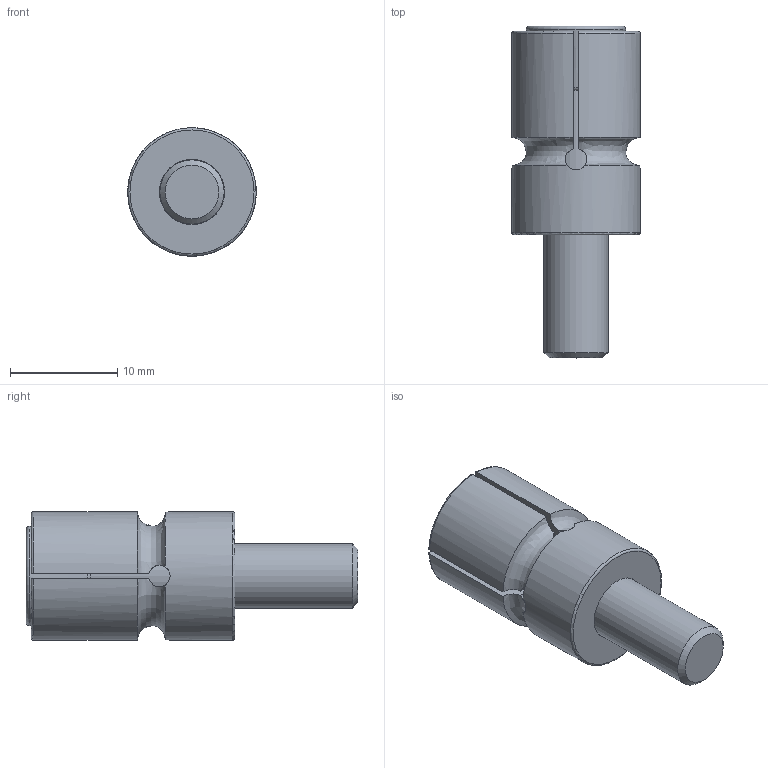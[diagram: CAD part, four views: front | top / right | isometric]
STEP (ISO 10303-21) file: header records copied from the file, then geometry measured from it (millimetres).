
FILE_DESCRIPTION(/* description */ (''),/* implementation_level */ '2;1');
FILE_NAME(/* name */ '12MM扩张销 .stp',/* time_stamp */ '2023-11-24T00:37:41+08:00',/* author */ (''),/* organization */ (''),/* preprocessor_version */ 'ST-DEVELOPER v16',/* originating_system */ 'SIEMENS PLM Software NX 10.0',/* authorisation */ '');
FILE_SCHEMA (('CONFIG_CONTROL_DESIGN'));
Length unit declared in the file: millimetre
Products named in the file (1): 12MM扩张销 _stp
Bounding box: 12 x 31 x 12 mm (x, y, z)
Volume: 2238 mm3; surface area: 2232.9 mm2
Topology: 2 solids, 2 shells, 61 faces, 161 edges, 105 vertices
Faces by surface type: plane 23, cylinder 17, torus 11, cone 6, bspline 4
Full cylindrical faces by diameter (mm): 6 x1, 6.1 x1, 12 x1
Entity records: 3618 total; most frequent: CARTESIAN_POINT 2180, ORIENTED_EDGE 296, DIRECTION 244, EDGE_CURVE 148, VERTEX_POINT 100, AXIS2_PLACEMENT_3D 94, EDGE_LOOP 72, ADVANCED_FACE 61
